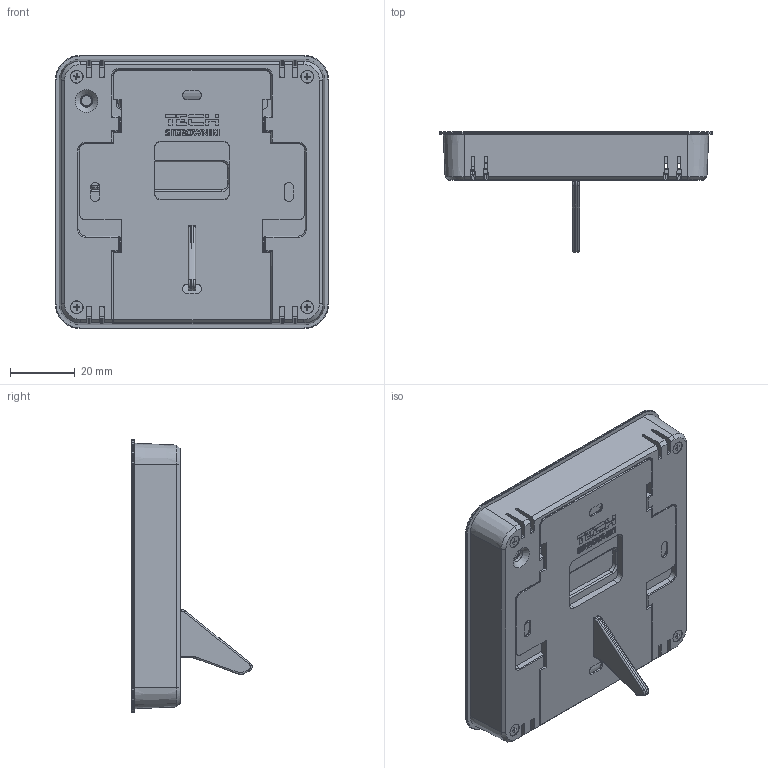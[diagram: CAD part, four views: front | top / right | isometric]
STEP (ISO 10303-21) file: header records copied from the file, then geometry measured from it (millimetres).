
FILE_DESCRIPTION(/* description */ (''),/* implementation_level */ '2;1');
FILE_NAME(/* name */ 'MC-01.step',/* time_stamp */ '2025-04-23T07:23:13+02:00',/* author */ (''),/* organization */ (''),/* preprocessor_version */ 'ST-DEVELOPER v20.1',/* originating_system */ 'Autodesk Translation Framework v14.4.0.0',/* authorisation */ '');
FILE_SCHEMA (('AUTOMOTIVE_DESIGN { 1 0 10303 214 3 1 1 }'));
Products named in the file (18): koncepk3; cyfry_większe+5MM; pokrywa doł; PŁYTKA 83; oslona pod szklo; zawieszka; wago ppagf; SWITCH 6X6X4,3; DIN ISO 7050 - C-H ST2.2 x 6.5 - C - H; PODPORKA1; PODSTAWKA WYSWIETLACZ; FRONT -R8B PLUS v1; SZKO; FARBAMC-01; ISO 7050 - C-H ST 2.2 x 6.5 - C - H; styk baterii AAA(-); styk baterii AAA(+); bateria AAA
Assembly tree (22 placements, depth 3):
  koncepk3
    cyfry_większe+5MM
    pokrywa doł
    PŁYTKA 83
    oslona pod szklo
    zawieszka
    wago ppagf
    styk baterii AAA(-)  x2
    styk baterii AAA(+)  x2
    SWITCH 6X6X4,3
    ISO 7050 - C-H ST 2.2 x 6.5 - C - H  x3
    DIN ISO 7050 - C-H ST2.2 x 6.5 - C - H
    PODPORKA1
    PODSTAWKA WYSWIETLACZ
    FRONT -R8B PLUS v1
      SZKO
      FARBAMC-01
    bateria AAA  x2
Bounding box: 84.47 x 37.22 x 84.47 mm (x, y, z)
Volume: 58251.4 mm3; surface area: 95203.1 mm2
Topology: 50 solids, 50 shells, 3068 faces, 8062 edges, 5285 vertices
Faces by surface type: plane 1753, bspline 684, cylinder 380, cone 172, torus 65, sphere 14
Full cylindrical faces by diameter (mm): 1 x3, 1.329 x4, 1.358 x4, 1.43 x4, 1.5 x5, 1.8 x4, 2 x4, 2.2 x4, 2.3 x4, 2.6 x2, 3.637 x1, 3.8 x4, 5.004 x2, 7 x1, 8 x4, 10.5 x2
Entity records: 100552 total; most frequent: CARTESIAN_POINT 29966, ORIENTED_EDGE 15544, DIRECTION 12301, EDGE_CURVE 7772, LINE 5195, VECTOR 5195, VERTEX_POINT 5102, AXIS2_PLACEMENT_3D 3553
